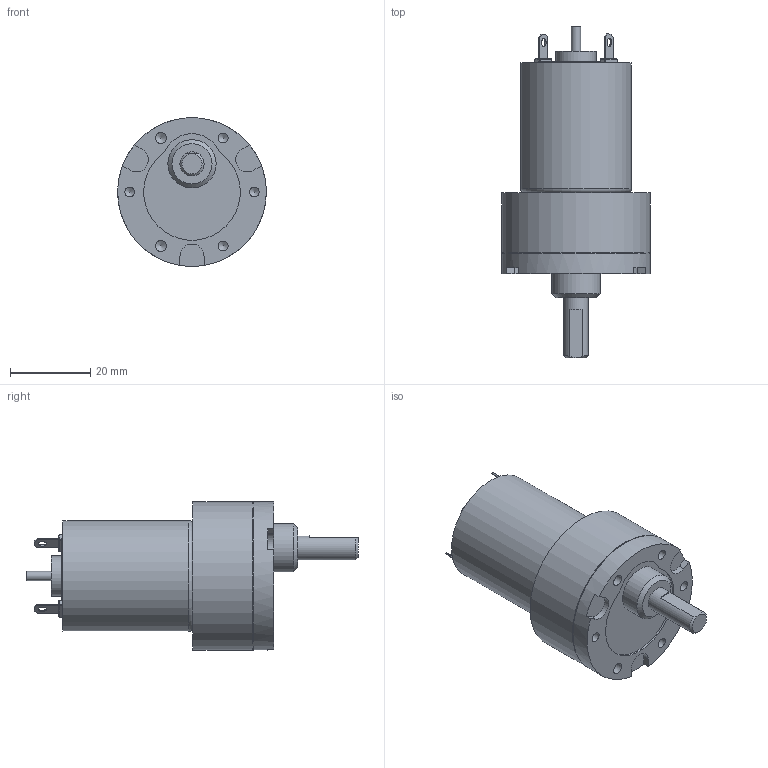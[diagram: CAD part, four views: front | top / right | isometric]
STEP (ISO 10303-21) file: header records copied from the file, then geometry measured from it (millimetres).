
FILE_DESCRIPTION((''),'2;1');
FILE_NAME('C:\Documents and Settings\SSEGAWA\デスクトップ\TP-2732D-KS-2.STP','2013-07-01T13:28:10',('SSEGAWA'),(''),'Autodesk Inventor 2010','Autodesk Inventor 2010','');
FILE_SCHEMA(('CONFIG_CONTROL_DESIGN'));
Length unit declared in the file: millimetre
Products named in the file (3): tp_2732def_ks_2; ks_2; tp_2732d,e,f
Assembly tree (2 placements, depth 2):
  tp_2732def_ks_2
    ks_2
    tp_2732d,e,f
Bounding box: 37 x 82.6 x 37 mm (x, y, z)
Volume: 41981.6 mm3; surface area: 10070.6 mm2
Topology: 3 solids, 3 shells, 162 faces, 364 edges, 233 vertices
Faces by surface type: plane 95, cylinder 36, bspline 25, torus 4, cone 2
Full cylindrical faces by diameter (mm): 2 x2, 2.305 x2, 2.5 x5, 6 x1, 9 x2, 10 x2, 12 x1, 19 x1, 26.7 x1, 27.7 x1, 36.6 x1, 37 x2
Entity records: 4421 total; most frequent: CARTESIAN_POINT 1013, DIRECTION 695, ORIENTED_EDGE 604, EDGE_CURVE 302, AXIS2_PLACEMENT_3D 253, EDGE_LOOP 233, VERTEX_POINT 213, VECTOR 189
